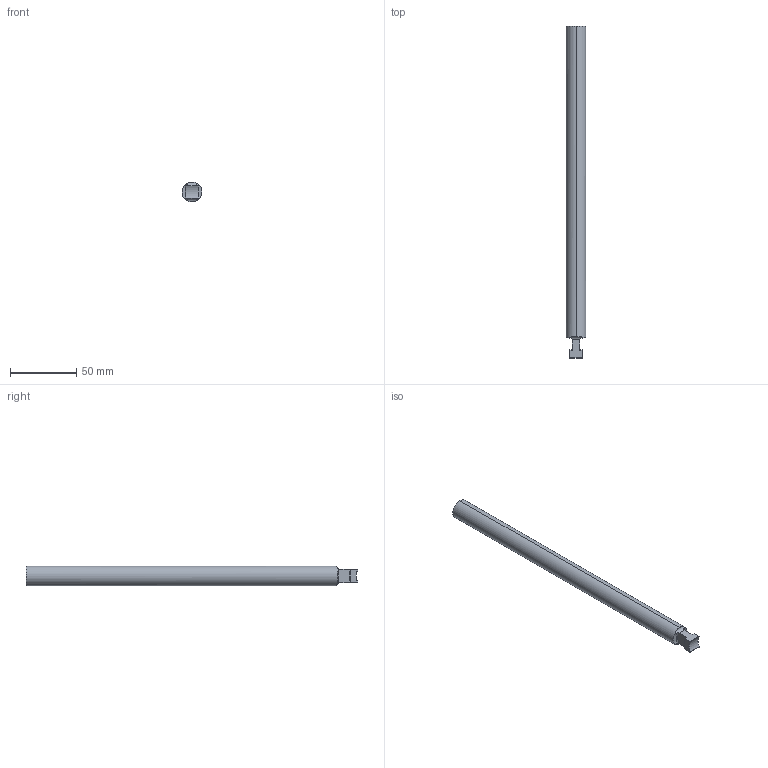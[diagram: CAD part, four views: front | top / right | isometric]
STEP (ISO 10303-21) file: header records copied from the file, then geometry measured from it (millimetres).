
FILE_DESCRIPTION (( 'STEP AP203' ), '1' );
FILE_NAME ('CBMMH15DL250.step', '2026-02-23T19:02:12', ( '' ), ( '' ), 'SwSTEP 2.0', 'SolidWorks 2023', '' );
FILE_SCHEMA (( 'CONFIG_CONTROL_DESIGN' ));
Length unit declared in the file: millimetre
Products named in the file (1): CBMMH15DL250
Bounding box: 15 x 251.16 x 15 mm (x, y, z)
Volume: 42735.1 mm3; surface area: 12037.8 mm2
Topology: 1 solids, 1 shells, 38 faces, 100 edges, 60 vertices
Faces by surface type: cylinder 15, torus 10, plane 9, sphere 4
Entity records: 1315 total; most frequent: CARTESIAN_POINT 349, DIRECTION 196, ORIENTED_EDGE 184, EDGE_CURVE 92, AXIS2_PLACEMENT_3D 83, VERTEX_POINT 56, CIRCLE 44, ADVANCED_FACE 38
